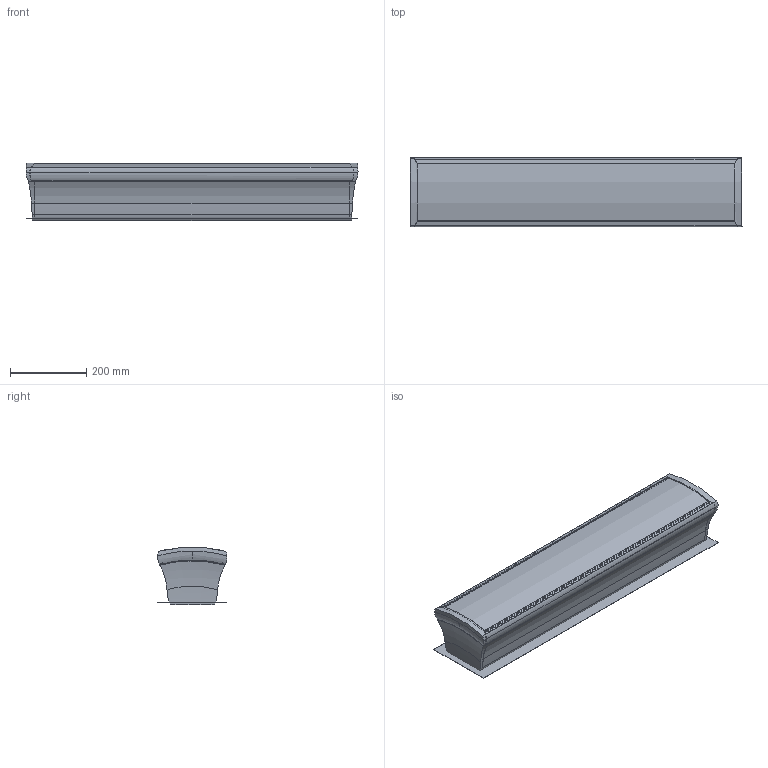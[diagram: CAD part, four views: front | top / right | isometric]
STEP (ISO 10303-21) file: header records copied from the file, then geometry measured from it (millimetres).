
FILE_DESCRIPTION (( 'STEP AP203' ), '1' );
FILE_NAME ('973812_C38m.STEP', '2024-09-13T13:06:50', ( '' ), ( '' ), 'SwSTEP 2.0', 'SolidWorks 2023', '' );
FILE_SCHEMA (( 'CONFIG_CONTROL_DESIGN' ));
Length unit declared in the file: inch
Products named in the file (11): -38 Side Rail; Front Cap 6-26-08_Top; 973812_C38m; -38 Screen; 802312 RevA Template C38m Onwall; 401100 RevC MTM faceplate; Rear Cap On Wall; 406450 RevA Bracket Onwall Wall Side V2; 401200 RevB 6” faceplate; Rear Extrusion On Wall C38m
Assembly tree (17 placements, depth 3):
  973812_C38m
    Rear Extrusion On Wall C38m
    401100 RevC MTM faceplate
    Front Cap 6-26-08_Top  x2
    401200 RevB 6” faceplate  x4
    -38 Screen
    Rear Cap On Wall  x2
    -38 Side Rail  x2
    802312 RevA Template C38m Onwall
      802312 RevA Template C38m Onwall
      406450 RevA Bracket Onwall Wall Side V2  x2
Bounding box: 868.86 x 183.15 x 150.07 mm (x, y, z)
Volume: 2732672.2 mm3; surface area: 2121406.3 mm2
Topology: 16 solids, 16 shells, 7081 faces, 17786 edges, 11029 vertices
Faces by surface type: plane 2534, cylinder 2241, bspline 2114, cone 192
Full cylindrical faces by diameter (mm): 2.705 x2, 3.048 x18, 3.175 x8, 3.2 x4, 3.454 x12, 3.797 x2, 4.039 x8, 4.496 x34, 4.762 x12, 5.5 x16, 11.684 x4
Entity records: 202637 total; most frequent: CARTESIAN_POINT 107996, ORIENTED_EDGE 23316, DIRECTION 12656, EDGE_CURVE 11658, VERTEX_POINT 7140, B_SPLINE_CURVE_WITH_KNOTS 7030, EDGE_LOOP 5290, FACE_OUTER_BOUND 4930
